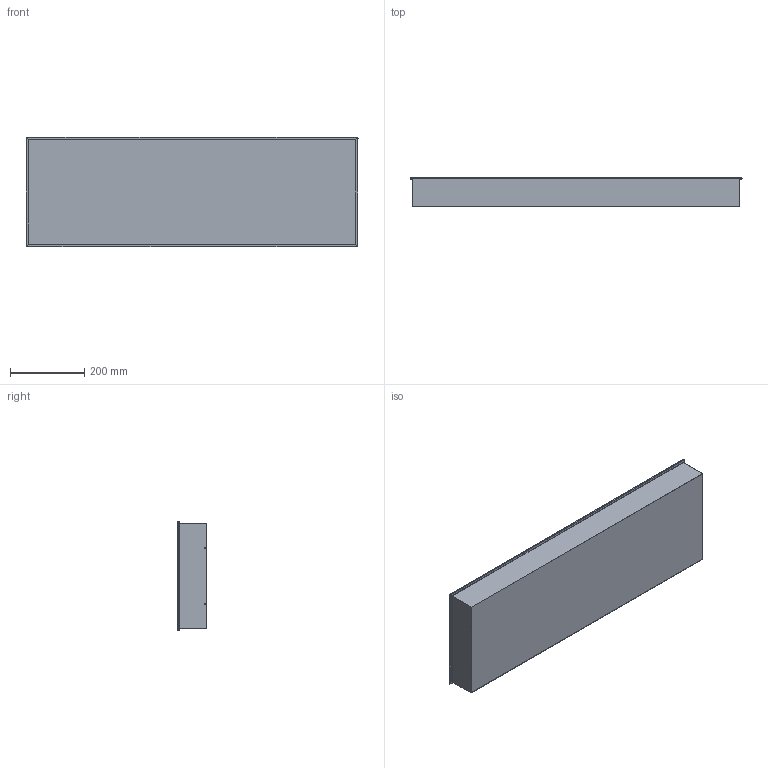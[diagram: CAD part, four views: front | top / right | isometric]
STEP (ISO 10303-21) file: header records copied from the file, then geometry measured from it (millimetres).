
FILE_DESCRIPTION(/* description */ (''),/* implementation_level */ '2;1');
FILE_NAME(/* name */ 'C:/Users/elena/Downloads/Coner QNQ 30x90.step',/* time_stamp */ '2020-06-17T13:06:50+02:00',/* author */ (''),/* organization */ (''),/* preprocessor_version */ 'ST-DEVELOPER v18.1',/* originating_system */ 'Autodesk Translation Framework v9.3.0.1241',/* authorisation */ '');
FILE_SCHEMA (('AUTOMOTIVE_DESIGN { 1 0 10303 214 3 1 1 }'));
Length unit declared in the file: millimetre
Products named in the file (1): (Unsaved)
Bounding box: 895 x 78 x 295 mm (x, y, z)
Volume: 1227816.1 mm3; surface area: 1409064.6 mm2
Topology: 2 solids, 2 shells, 51 faces, 138 edges, 93 vertices
Faces by surface type: plane 31, cylinder 16, bspline 4
Entity records: 2255 total; most frequent: CARTESIAN_POINT 909, ORIENTED_EDGE 276, DIRECTION 252, EDGE_CURVE 138, LINE 104, VECTOR 104, VERTEX_POINT 93, AXIS2_PLACEMENT_3D 74
